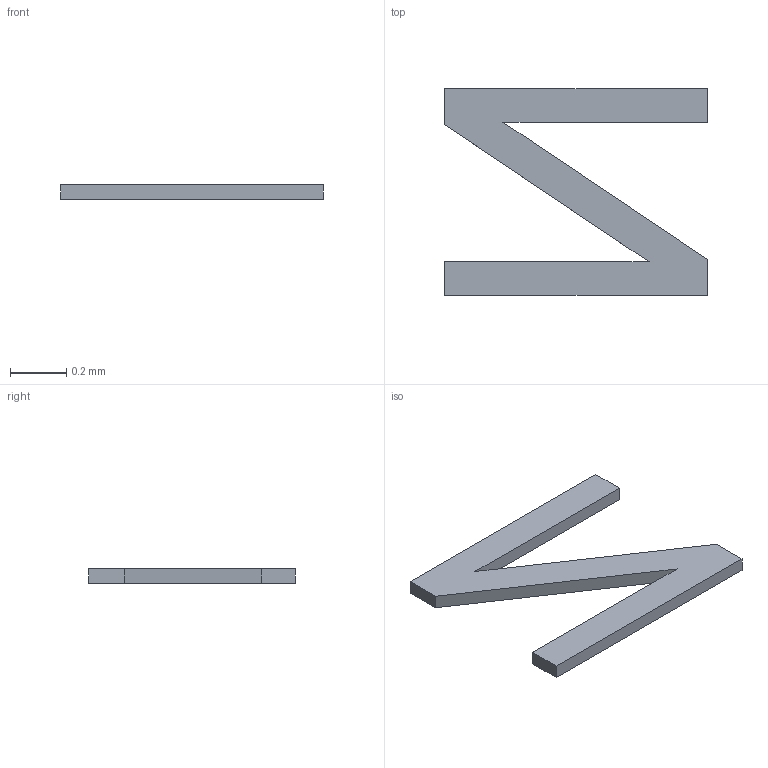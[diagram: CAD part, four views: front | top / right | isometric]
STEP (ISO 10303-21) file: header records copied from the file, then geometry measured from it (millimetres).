
FILE_DESCRIPTION(/* description */ ('STEP AP242 Edition 2','CAx-IF Rec.Pracs.---Representation and Presentation of Product Manufacturing Information (PMI)---4.0---2014-10-13','CAx-IF Rec.Pracs.---3D Tessellated Geometry---0.4---2014-09-14','2;1','CAx-IF Rec.Pracs.---User Defined Attributes---1.5---2016-08-15'),/* implementation_level */ '2;1');
FILE_NAME(/* name */ 'Drone Layout - Surface 304',/* time_stamp */ '2026-10-04T22:22:55Z',/* author */ (''),/* organization */ (''),/* preprocessor_version */ 'ST-DEVELOPER v20',/* originating_system */ 'ONSHAPE BY PTC INC, 1.221',/* authorisation */ ' ');
FILE_SCHEMA (('AP242_MANAGED_MODEL_BASED_3D_ENGINEERING_MIM_LF { 1 0 10303 442 3 1 4 }'));
Length unit declared in the file: metre
Products named in the file (1): Text_INT
Bounding box: 0.93 x 0.74 x 0.05 mm (x, y, z)
Volume: 0 mm3; surface area: 0.9 mm2
Topology: 1 solids, 1 shells, 12 faces, 30 edges, 20 vertices
Faces by surface type: plane 12
Entity records: 367 total; most frequent: CARTESIAN_POINT 63, ORIENTED_EDGE 60, DIRECTION 56, EDGE_CURVE 30, LINE 30, VECTOR 30, VERTEX_POINT 20, AXIS2_PLACEMENT_3D 13
